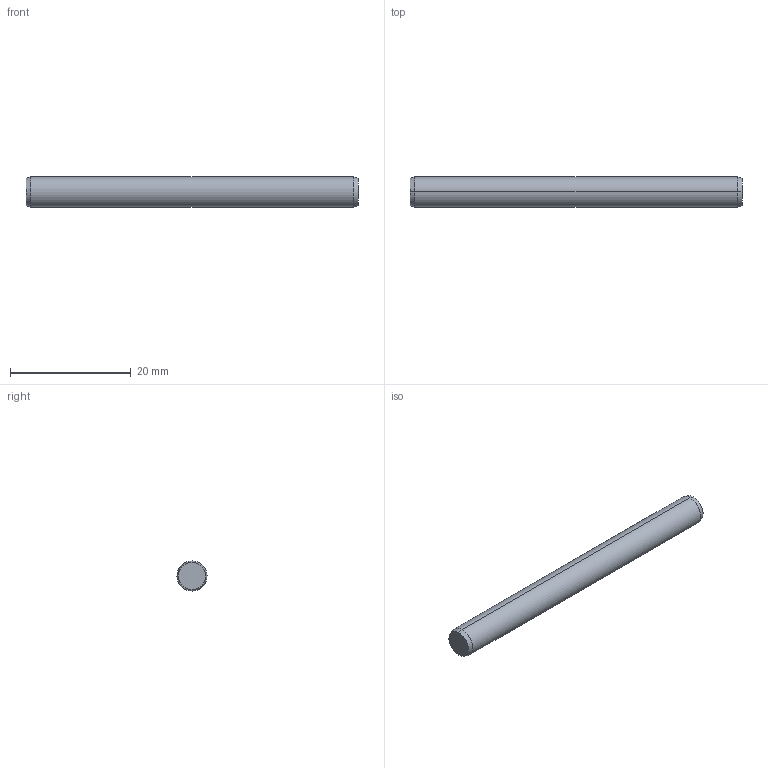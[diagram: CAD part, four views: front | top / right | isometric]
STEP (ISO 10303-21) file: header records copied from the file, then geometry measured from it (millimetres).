
FILE_DESCRIPTION (( 'STEP AP203' ), '1' );
FILE_NAME ('P1206.050-055.step', '2017-06-14T08:18:30', ( 'User' ), ( '' ), 'SwSTEP 2.0', 'SolidWorks 2009', '' );
FILE_SCHEMA (( 'CONFIG_CONTROL_DESIGN' ));
Length unit declared in the file: millimetre
Products named in the file (1): P1206.050-055
Bounding box: 55 x 5 x 5 mm (x, y, z)
Volume: 1077.3 mm3; surface area: 896.5 mm2
Topology: 1 solids, 1 shells, 8 faces, 14 edges, 8 vertices
Faces by surface type: cone 4, cylinder 2, plane 2
Entity records: 271 total; most frequent: DIRECTION 40, CARTESIAN_POINT 31, ORIENTED_EDGE 28, AXIS2_PLACEMENT_3D 17, EDGE_CURVE 14, FACE_OUTER_BOUND 8, CIRCLE 8, ADVANCED_FACE 8
